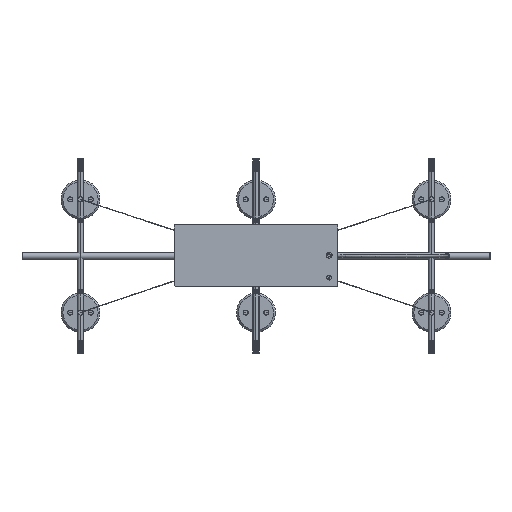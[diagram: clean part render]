
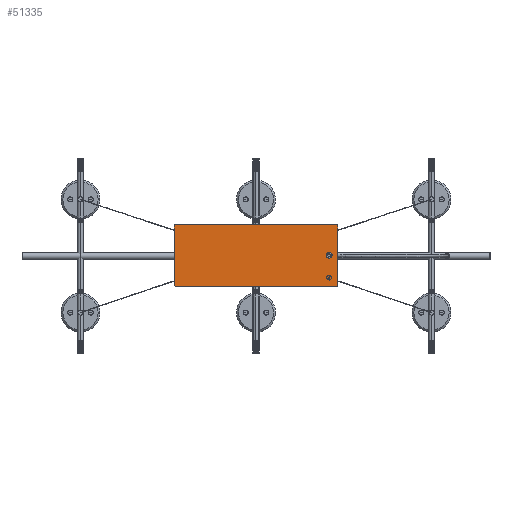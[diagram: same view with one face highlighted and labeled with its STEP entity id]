
A CAD part, top view. The second image highlights one B-rep face of the part: STEP entity #51335.
In plain terms, the highlighted planar face has unit normal (0, 0, 1).
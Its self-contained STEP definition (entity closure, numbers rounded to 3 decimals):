
#670 = CARTESIAN_POINT ( 'NONE',  ( -471., 11.422, 1121.251 ) ) ;
#1030 = AXIS2_PLACEMENT_3D ( 'NONE', #46004, #86769, #67336 ) ;
#1644 = CARTESIAN_POINT ( 'NONE',  ( -891., -59., 1121.251 ) ) ;
#3912 = VERTEX_POINT ( 'NONE', #63410 ) ;
#5431 = CARTESIAN_POINT ( 'NONE',  ( -886., -64., 1121.251 ) ) ;
#6580 = ORIENTED_EDGE ( 'NONE', *, *, #113572, .T. ) ;
#7470 = VERTEX_POINT ( 'NONE', #49151 ) ;
#9277 = CARTESIAN_POINT ( 'NONE',  ( -471., 91., 1121.251 ) ) ;
#10689 = CARTESIAN_POINT ( 'NONE',  ( -476., 96., 1121.251 ) ) ;
#12274 = B_SPLINE_CURVE_WITH_KNOTS ( 'NONE', 2,
 ( #10689, #61161, #78685 ),
 .UNSPECIFIED., .F., .F.,
 ( 3, 3 ),
 ( 578.408, 775.658 ),
 .UNSPECIFIED. ) ;
#15279 = ORIENTED_EDGE ( 'NONE', *, *, #108915, .T. ) ;
#17005 =( BOUNDED_CURVE ( )  B_SPLINE_CURVE ( 2, ( #50969, #70418, #109901 ),
 .UNSPECIFIED., .F., .F. ) 
 B_SPLINE_CURVE_WITH_KNOTS ( ( 3, 3 ),
 ( 498.886, 506.74 ),
 .UNSPECIFIED. ) 
 CURVE ( )  GEOMETRIC_REPRESENTATION_ITEM ( )  RATIONAL_B_SPLINE_CURVE ( ( 1., 0.707, 1. ) ) 
 REPRESENTATION_ITEM ( '' )  );
#17091 = CARTESIAN_POINT ( 'NONE',  ( -476., 96., 1121.251 ) ) ;
#22009 = CARTESIAN_POINT ( 'NONE',  ( -471., 86.422, 1121.251 ) ) ;
#23370 = ORIENTED_EDGE ( 'NONE', *, *, #89962, .T. ) ;
#26417 = CARTESIAN_POINT ( 'NONE',  ( -891., 91., 1121.251 ) ) ;
#26787 = EDGE_CURVE ( 'NONE', #124393, #79242, #12274, .T. ) ;
#27118 = CARTESIAN_POINT ( 'NONE',  ( -891., -59., 1121.251 ) ) ;
#29505 = VERTEX_POINT ( 'NONE', #1644 ) ;
#30735 = CARTESIAN_POINT ( 'NONE',  ( -886., -64., 1121.251 ) ) ;
#35479 = CARTESIAN_POINT ( 'NONE',  ( -891., 96., 1121.251 ) ) ;
#35911 = ORIENTED_EDGE ( 'NONE', *, *, #123015, .T. ) ;
#39157 = EDGE_CURVE ( 'NONE', #7470, #64707, #17005, .T. ) ;
#44896 = CARTESIAN_POINT ( 'NONE',  ( -681., -64., 1121.251 ) ) ;
#46004 = CARTESIAN_POINT ( 'NONE',  ( -943.5, -84., 1121.251 ) ) ;
#49151 = CARTESIAN_POINT ( 'NONE',  ( -476., -64., 1121.251 ) ) ;
#50969 = CARTESIAN_POINT ( 'NONE',  ( -476., -64., 1121.251 ) ) ;
#51335 = ADVANCED_FACE ( 'NONE', ( #115950 ), #106184, .T. ) ;
#53564 = ORIENTED_EDGE ( 'NONE', *, *, #26787, .T. ) ;
#56041 = B_SPLINE_CURVE_WITH_KNOTS ( 'NONE', 2,
 ( #111351, #670, #60220, #22009, #90024 ),
 .UNSPECIFIED., .F., .F.,
 ( 3, 2, 3 ),
 ( 506.74, 561.397, 570.554 ),
 .UNSPECIFIED. ) ;
#60220 = CARTESIAN_POINT ( 'NONE',  ( -471., 81.843, 1121.251 ) ) ;
#61161 = CARTESIAN_POINT ( 'NONE',  ( -681., 96., 1121.251 ) ) ;
#62260 = CARTESIAN_POINT ( 'NONE',  ( -476., 96., 1121.251 ) ) ;
#63410 = CARTESIAN_POINT ( 'NONE',  ( -891., 91., 1121.251 ) ) ;
#63746 =( BOUNDED_CURVE ( )  B_SPLINE_CURVE ( 2, ( #9277, #88273, #17091 ),
 .UNSPECIFIED., .F., .F. ) 
 B_SPLINE_CURVE_WITH_KNOTS ( ( 3, 3 ),
 ( 570.554, 578.408 ),
 .UNSPECIFIED. ) 
 CURVE ( )  GEOMETRIC_REPRESENTATION_ITEM ( )  RATIONAL_B_SPLINE_CURVE ( ( 1., 0.707, 1. ) ) 
 REPRESENTATION_ITEM ( '' )  );
#64707 = VERTEX_POINT ( 'NONE', #69205 ) ;
#65982 = CARTESIAN_POINT ( 'NONE',  ( -891., 91., 1121.251 ) ) ;
#67336 = DIRECTION ( 'NONE',  ( 1., 0., 0. ) ) ;
#68463 = ORIENTED_EDGE ( 'NONE', *, *, #39157, .T. ) ;
#69205 = CARTESIAN_POINT ( 'NONE',  ( -471., -59., 1121.251 ) ) ;
#70418 = CARTESIAN_POINT ( 'NONE',  ( -471., -64., 1121.251 ) ) ;
#76978 = ORIENTED_EDGE ( 'NONE', *, *, #100622, .T. ) ;
#77332 = CARTESIAN_POINT ( 'NONE',  ( -886., -64., 1121.251 ) ) ;
#77438 = B_SPLINE_CURVE_WITH_KNOTS ( 'NONE', 2,
 ( #65982, #78225, #27118 ),
 .UNSPECIFIED., .F., .F.,
 ( 3, 3 ),
 ( 783.512, 792.668 ),
 .UNSPECIFIED. ) ;
#78225 = CARTESIAN_POINT ( 'NONE',  ( -891., 16., 1121.251 ) ) ;
#78685 = CARTESIAN_POINT ( 'NONE',  ( -886., 96., 1121.251 ) ) ;
#79242 = VERTEX_POINT ( 'NONE', #115955 ) ;
#86769 = DIRECTION ( 'NONE',  ( 0., 0., 1. ) ) ;
#88273 = CARTESIAN_POINT ( 'NONE',  ( -471., 96., 1121.251 ) ) ;
#89962 = EDGE_CURVE ( 'NONE', #3912, #29505, #77438, .T. ) ;
#90024 = CARTESIAN_POINT ( 'NONE',  ( -471., 91., 1121.251 ) ) ;
#92488 = EDGE_LOOP ( 'NONE', ( #6580, #113689, #68463, #76978, #15279, #53564, #35911, #23370 ) ) ;
#94200 = CARTESIAN_POINT ( 'NONE',  ( -471., 91., 1121.251 ) ) ;
#100622 = EDGE_CURVE ( 'NONE', #64707, #102138, #56041, .T. ) ;
#101948 = CARTESIAN_POINT ( 'NONE',  ( -891., -59., 1121.251 ) ) ;
#102138 = VERTEX_POINT ( 'NONE', #94200 ) ;
#102554 = CARTESIAN_POINT ( 'NONE',  ( -476., -64., 1121.251 ) ) ;
#106184 = PLANE ( 'NONE',  #1030 ) ;
#107514 = EDGE_CURVE ( 'NONE', #127177, #7470, #121737, .T. ) ;
#108915 = EDGE_CURVE ( 'NONE', #102138, #124393, #63746, .T. ) ;
#109901 = CARTESIAN_POINT ( 'NONE',  ( -471., -59., 1121.251 ) ) ;
#111351 = CARTESIAN_POINT ( 'NONE',  ( -471., -59., 1121.251 ) ) ;
#113572 = EDGE_CURVE ( 'NONE', #29505, #127177, #118562, .T. ) ;
#113689 = ORIENTED_EDGE ( 'NONE', *, *, #107514, .T. ) ;
#115950 = FACE_OUTER_BOUND ( 'NONE', #92488, .T. ) ;
#115955 = CARTESIAN_POINT ( 'NONE',  ( -886., 96., 1121.251 ) ) ;
#116920 =( BOUNDED_CURVE ( )  B_SPLINE_CURVE ( 2, ( #124223, #35479, #26417 ),
 .UNSPECIFIED., .F., .F. ) 
 B_SPLINE_CURVE_WITH_KNOTS ( ( 3, 3 ),
 ( 775.658, 783.512 ),
 .UNSPECIFIED. ) 
 CURVE ( )  GEOMETRIC_REPRESENTATION_ITEM ( )  RATIONAL_B_SPLINE_CURVE ( ( 1., 0.707, 1. ) ) 
 REPRESENTATION_ITEM ( '' )  );
#118562 =( BOUNDED_CURVE ( )  B_SPLINE_CURVE ( 2, ( #101948, #119483, #30735 ),
 .UNSPECIFIED., .F., .F. ) 
 B_SPLINE_CURVE_WITH_KNOTS ( ( 3, 3 ),
 ( 293.782, 301.636 ),
 .UNSPECIFIED. ) 
 CURVE ( )  GEOMETRIC_REPRESENTATION_ITEM ( )  RATIONAL_B_SPLINE_CURVE ( ( 1., 0.707, 1. ) ) 
 REPRESENTATION_ITEM ( '' )  );
#119483 = CARTESIAN_POINT ( 'NONE',  ( -891., -64., 1121.251 ) ) ;
#121737 = B_SPLINE_CURVE_WITH_KNOTS ( 'NONE', 2,
 ( #5431, #44896, #102554 ),
 .UNSPECIFIED., .F., .F.,
 ( 3, 3 ),
 ( 301.636, 498.886 ),
 .UNSPECIFIED. ) ;
#123015 = EDGE_CURVE ( 'NONE', #79242, #3912, #116920, .T. ) ;
#124223 = CARTESIAN_POINT ( 'NONE',  ( -886., 96., 1121.251 ) ) ;
#124393 = VERTEX_POINT ( 'NONE', #62260 ) ;
#127177 = VERTEX_POINT ( 'NONE', #77332 ) ;
